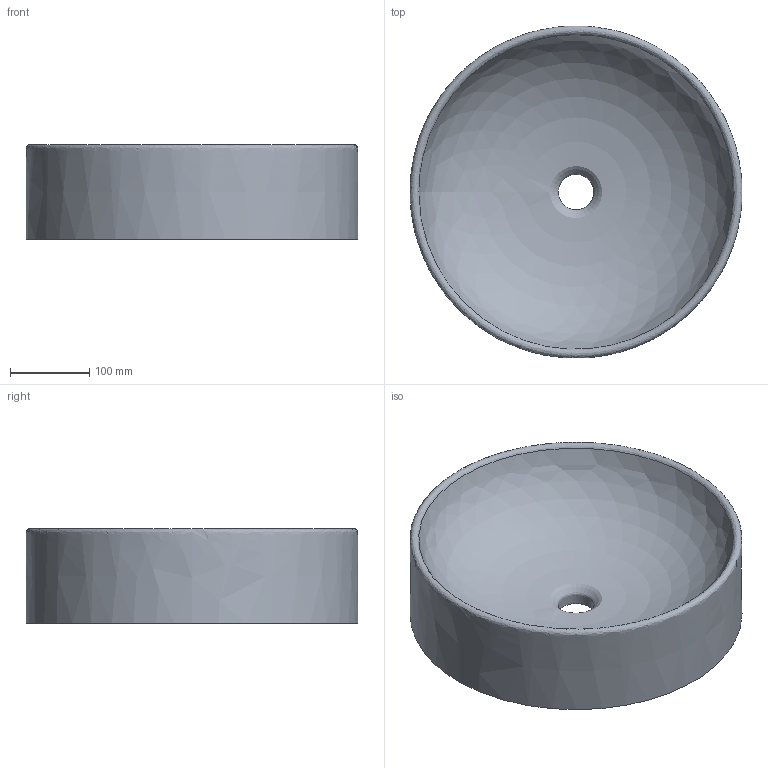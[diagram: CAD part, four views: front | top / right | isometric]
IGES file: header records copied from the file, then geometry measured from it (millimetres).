
Global section: file name: C:\Users\pc\Desktop\Ottobre notebook\Lavabo Mod 42\Mod D42 h12.igs; native system: Rhinoceros ( Dec  8 2020 ); preprocessor: Trout Lake IGES 012 Dec  8 2020; date: 231005.150919; units: millimetre
Bounding box: 419.82 x 419.61 x 120 mm (x, y, z)
Surface area: 476093.6 mm2 (no closed solid volume)
Topology: 0 solids, 0 shells, 3 faces, 27 edges, 25 vertices
Faces by surface type: bspline 3
